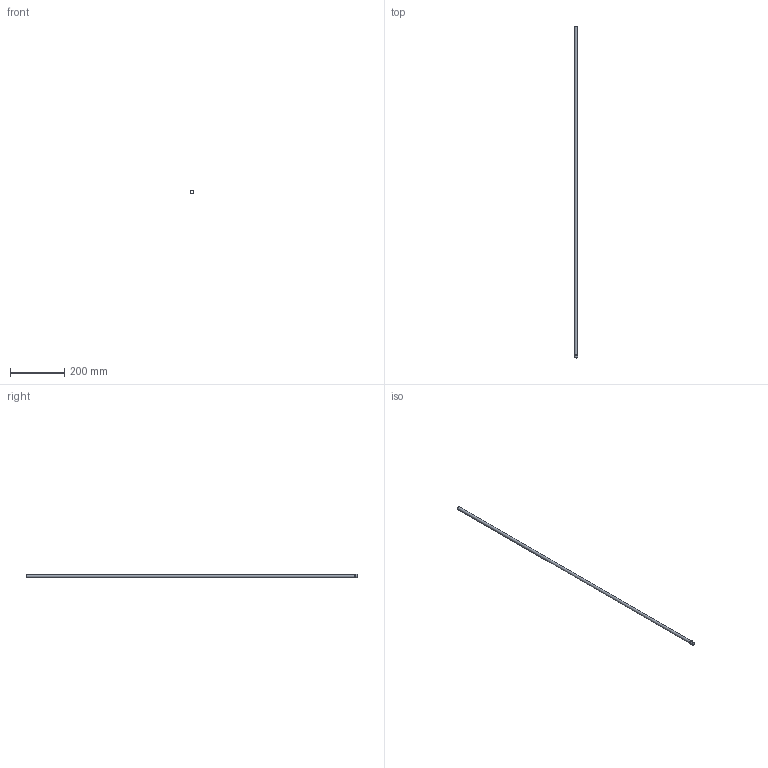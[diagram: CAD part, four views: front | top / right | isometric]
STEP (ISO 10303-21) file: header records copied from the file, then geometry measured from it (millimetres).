
FILE_DESCRIPTION(/* description */ (''),/* implementation_level */ '2;1');
FILE_NAME(/* name */ 'C:/Users/drich/Desktop/HF437T-48 v1.step',/* time_stamp */ '2019-12-30T13:36:25-06:00',/* author */ (''),/* organization */ (''),/* preprocessor_version */ 'ST-DEVELOPER v18',/* originating_system */ 'Autodesk Translation Framework v8.12.0.6',/* authorisation */ '');
FILE_SCHEMA (('AUTOMOTIVE_DESIGN { 1 0 10303 214 3 1 1 }'));
Length unit declared in the file: inch
Products named in the file (1): HF437T-48
Bounding box: 12.75 x 1219.2 x 12.75 mm (x, y, z)
Volume: 15678.4 mm3; surface area: 80313.9 mm2
Topology: 1 solids, 1 shells, 12 faces, 30 edges, 22 vertices
Faces by surface type: plane 4, cylinder 4, torus 3, cone 1
Full cylindrical faces by diameter (mm): 10.084 x1, 10.846 x1, 12.565 x1, 12.751 x1
Entity records: 426 total; most frequent: DIRECTION 81, CARTESIAN_POINT 65, ORIENTED_EDGE 60, AXIS2_PLACEMENT_3D 38, EDGE_CURVE 30, CIRCLE 25, VERTEX_POINT 22, EDGE_LOOP 16
